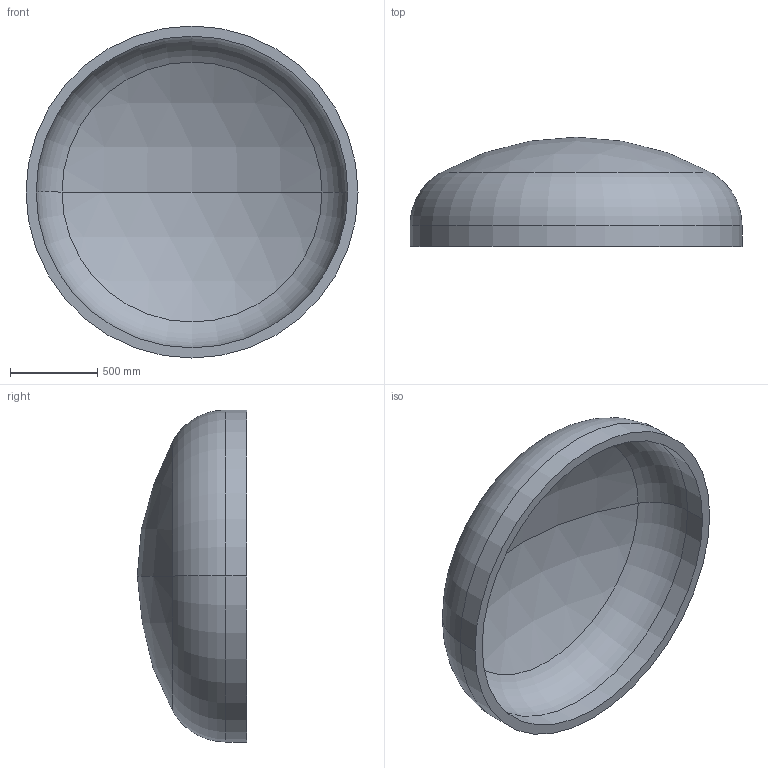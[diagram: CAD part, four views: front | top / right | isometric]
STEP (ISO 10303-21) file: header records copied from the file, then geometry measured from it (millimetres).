
FILE_DESCRIPTION (( 'STEP AP203' ), '1' );
FILE_NAME ('DIN 28013 Korbbogenform_-_Boden DIN 28013 - 1900 x 120 - I - s=58.step', '2016-07-01T13:14:48', ( '' ), ( '' ), 'SwSTEP 2.0', 'SolidWorks 2013', '' );
FILE_SCHEMA (( 'CONFIG_CONTROL_DESIGN' ));
Length unit declared in the file: millimetre
Products named in the file (1): DIN 28013 Korbbogenform_-_Boden DIN 28013 - 1900 x 120 - I - s=58
Bounding box: 1900 x 625.39 x 1900 mm (x, y, z)
Volume: 258741399.5 mm3; surface area: 9264795.3 mm2
Topology: 1 solids, 1 shells, 13 faces, 24 edges, 14 vertices
Faces by surface type: torus 4, cylinder 4, sphere 4, plane 1
Entity records: 407 total; most frequent: DIRECTION 72, CARTESIAN_POINT 52, ORIENTED_EDGE 48, AXIS2_PLACEMENT_3D 34, EDGE_CURVE 24, CIRCLE 20, VERTEX_POINT 14, EDGE_LOOP 14
